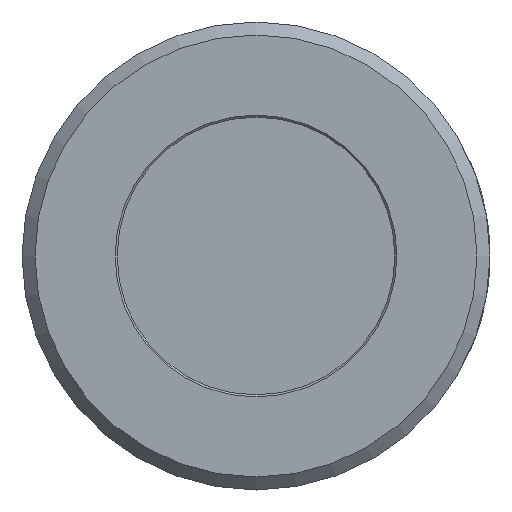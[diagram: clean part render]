
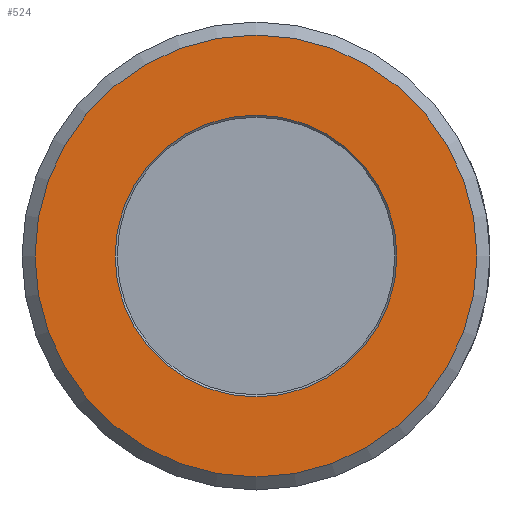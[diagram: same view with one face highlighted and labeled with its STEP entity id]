
A CAD part, left-side view. The second image highlights one B-rep face of the part: STEP entity #524.
In plain terms, the highlighted planar face has unit normal (-1, 0, 0).
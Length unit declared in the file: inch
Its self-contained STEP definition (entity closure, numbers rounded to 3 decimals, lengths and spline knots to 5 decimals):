
#524 = ADVANCED_FACE( '', ( #1085, #1086 ), #1087, .T. );
#1085 = FACE_BOUND( '', #3101, .T. );
#1086 = FACE_OUTER_BOUND( '', #3102, .T. );
#1087 = PLANE( '', #3103 );
#3101 = EDGE_LOOP( '', ( #5105 ) );
#3102 = EDGE_LOOP( '', ( #5106 ) );
#3103 = AXIS2_PLACEMENT_3D( '', #5107, #5108, #5109 );
#5105 = ORIENTED_EDGE( '', *, *, #5507, .T. );
#5106 = ORIENTED_EDGE( '', *, *, #6093, .T. );
#5107 = CARTESIAN_POINT( '', ( -0.005, 0., 0.6675 ) );
#5108 = DIRECTION( '', ( -1., 0., 0. ) );
#5109 = DIRECTION( '', ( 0., 0., 1. ) );
#5507 = EDGE_CURVE( '', #6181, #6181, #6182, .F. );
#6093 = EDGE_CURVE( '', #7084, #7084, #7085, .T. );
#6181 = VERTEX_POINT( '', #7181 );
#6182 = CIRCLE( '', #7182, 0.6775 );
#7084 = VERTEX_POINT( '', #9733 );
#7085 = CIRCLE( '', #9734, 1.0625 );
#7181 = CARTESIAN_POINT( '', ( -0.005, 0., 0.6775 ) );
#7182 = AXIS2_PLACEMENT_3D( '', #10300, #10301, #10302 );
#9733 = CARTESIAN_POINT( '', ( -0.005, 0., 1.0625 ) );
#9734 = AXIS2_PLACEMENT_3D( '', #10327, #10328, #10329 );
#10300 = CARTESIAN_POINT( '', ( -0.005, 0., 0. ) );
#10301 = DIRECTION( '', ( -1., 0., 0. ) );
#10302 = DIRECTION( '', ( 0., 0., 1. ) );
#10327 = CARTESIAN_POINT( '', ( -0.005, 0., 0. ) );
#10328 = DIRECTION( '', ( -1., 0., 0. ) );
#10329 = DIRECTION( '', ( 0., 0., 1. ) );
